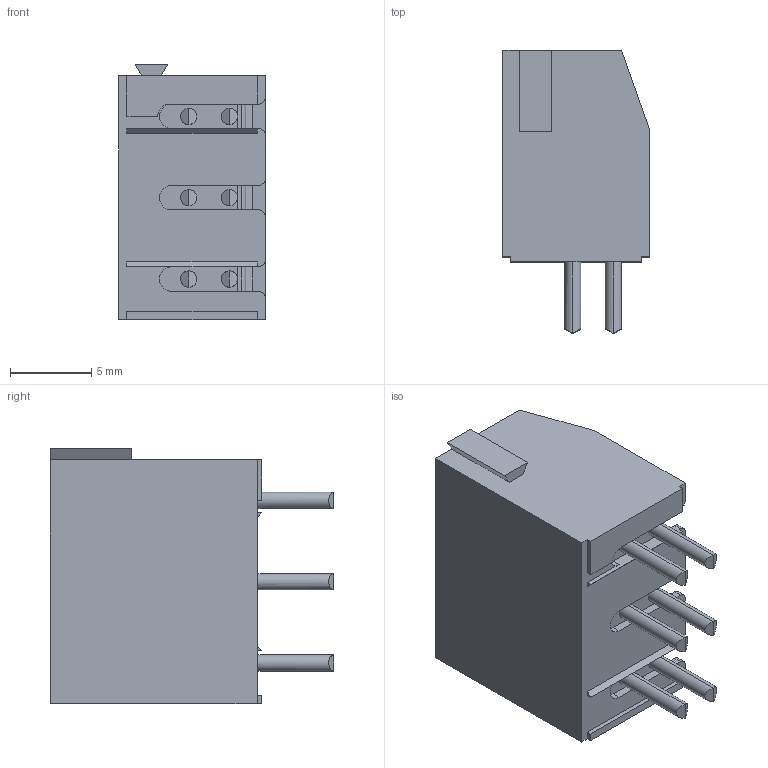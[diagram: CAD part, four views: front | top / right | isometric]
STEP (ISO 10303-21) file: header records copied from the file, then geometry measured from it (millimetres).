
FILE_DESCRIPTION (( 'STEP AP214' ), '1' );
FILE_NAME ('978-TY-DS-03.STEP', '2007-11-26T18:38:24', ( 'weco' ), ( 'weco' ), 'SwSTEP 2.0', 'SolidWorks 2007', '' );
FILE_SCHEMA (( 'AUTOMOTIVE_DESIGN' ));
Length unit declared in the file: millimetre
Products named in the file (1): 978-TY-DS-03
Bounding box: 9 x 17.4 x 15.7 mm (x, y, z)
Volume: 1490.6 mm3; surface area: 1713.9 mm2
Topology: 4 solids, 4 shells, 393 faces, 1136 edges, 746 vertices
Faces by surface type: plane 298, cylinder 77, cone 18
Entity records: 13042 total; most frequent: CARTESIAN_POINT 2603, ORIENTED_EDGE 2272, DIRECTION 2036, EDGE_CURVE 1136, VECTOR 862, LINE 862, VERTEX_POINT 746, AXIS2_PLACEMENT_3D 587
